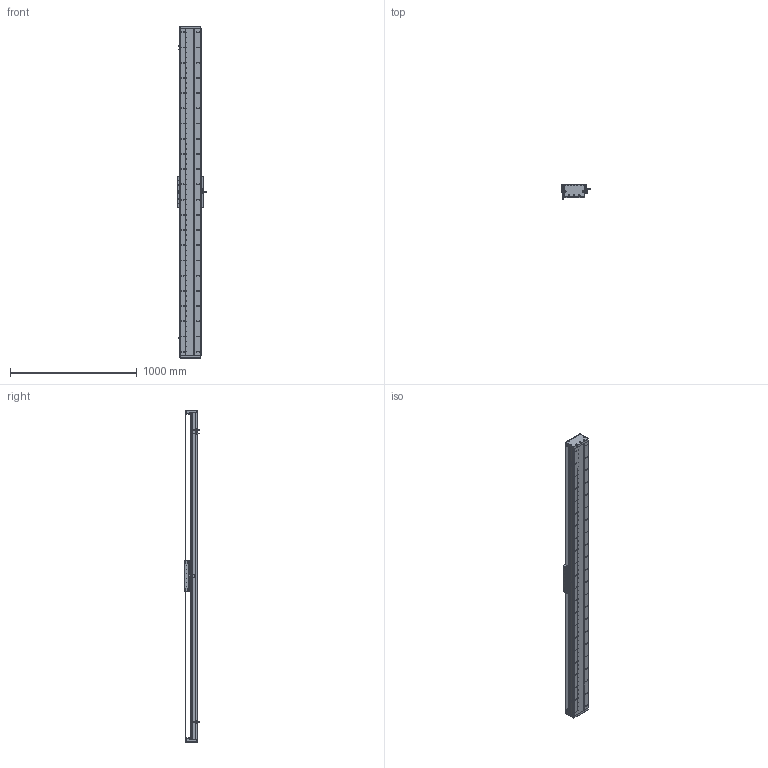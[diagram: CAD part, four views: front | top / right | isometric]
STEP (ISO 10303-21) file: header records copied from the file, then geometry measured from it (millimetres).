
FILE_DESCRIPTION (( 'STEP AP203' ), '1' );
FILE_NAME ('DA-C165-C3-T2280-C010-0.2 直线电机.STEP', '2023-06-13T08:52:38', ( '微软用户' ), ( '微软中国' ), 'SwSTEP 2.0', 'SolidWorks 2019', '' );
FILE_SCHEMA (( 'CONFIG_CONTROL_DESIGN' ));
Length unit declared in the file: millimetre
Products named in the file (18): 复件 DA165-GYP-00 光电感应片^DA-C165-C3-T-C010-0.2-N 直线电机; 葩璃 CKM01-W075-TRL^DA-C165-C3-T-C010-0.2-N 眻盄萇儂; 复件 DA165-GDLK-00 钢带拉块^复件 CU165钢带组件_DA-C165-C3-T-C010-0.2-N 直线电机; 葩璃 CKM03-W075-C1C2-TP-3.0^DA-C165-C3-T-C010-0.2-N 眻盄萇儂; 复件 XD-U-02L 磁栅尺^DA-C165-C3-T-C010-0.2-N 直线电机_T; 复件 六角薄螺母 M3^DA-C165-C3-T-C010-0.2-N 直线电机_GB_FASTENER_NUT_STNAB M3-C; DA-C165-C3-T2280-C010-0.2 眻盄萇儂; 复件 CU165钢带组件^DA-C165-C3-T-C010-0.2-N 直线电机; IU-CU165-L 菁釱絳寢; 复件 CU165 底座^IU-CU165-L 底座导轨_L2580; 复件 DA95-HXJ-00 缓冲橡胶^DA-C165-C3-T-C010-0.2-N 直线电机; 葩璃 DA95-GT-T-00^IU-CU165-L 菁釱絳寢_T; 复件 DA165-GDYK-00 钢带压块^复件 CU165钢带组件_DA-C165-C3-T-C010-0.2-N 直线电机; 葩璃 PM-T45^DA-C165-C3-T-C010-0.2-N 眻盄萇儂; 复件 DMA-010-0.2 读数头^DA-C165-C3-T-C010-0.2-N 直线电机; 复件 DA165-GD-1860-002-00 钢带盖板^复件 CU165钢带组件_DA-C165-C3-T-C010-0.2-N 直线电机; 复件 DA165-GD-DG-H-00 端盖^复件 CU165钢带组件_DA-C165-C3-T-C010-0.2-N 直线电机; 珨极趙賑雄怢啣C3-wf
Assembly tree (35 placements, depth 3):
  DA-C165-C3-T2280-C010-0.2 眻盄萇儂
    IU-CU165-L 菁釱絳寢
      复件 CU165 底座^IU-CU165-L 底座导轨_L2580
      葩璃 DA95-GT-T-00^IU-CU165-L 菁釱絳寢_T  x4
    复件 XD-U-02L 磁栅尺^DA-C165-C3-T-C010-0.2-N 直线电机_T
    葩璃 PM-T45^DA-C165-C3-T-C010-0.2-N 眻盄萇儂  x3
    葩璃 CKM01-W075-TRL^DA-C165-C3-T-C010-0.2-N 眻盄萇儂
    复件 CU165钢带组件^DA-C165-C3-T-C010-0.2-N 直线电机
      复件 DA165-GD-DG-H-00 端盖^复件 CU165钢带组件_DA-C165-C3-T-C010-0.2-N 直线电机  x2
      复件 DA165-GDYK-00 钢带压块^复件 CU165钢带组件_DA-C165-C3-T-C010-0.2-N 直线电机  x2
      复件 DA165-GD-1860-002-00 钢带盖板^复件 CU165钢带组件_DA-C165-C3-T-C010-0.2-N 直线电机
      复件 DA165-GDLK-00 钢带拉块^复件 CU165钢带组件_DA-C165-C3-T-C010-0.2-N 直线电机  x2
    复件 DA95-HXJ-00 缓冲橡胶^DA-C165-C3-T-C010-0.2-N 直线电机  x4
    复件 DA165-GYP-00 光电感应片^DA-C165-C3-T-C010-0.2-N 直线电机
    复件 DMA-010-0.2 读数头^DA-C165-C3-T-C010-0.2-N 直线电机
    葩璃 CKM03-W075-C1C2-TP-3.0^DA-C165-C3-T-C010-0.2-N 眻盄萇儂
    复件 六角薄螺母 M3^DA-C165-C3-T-C010-0.2-N 直线电机_GB_FASTENER_NUT_STNAB M3-C  x8
    珨极趙賑雄怢啣C3-wf
Bounding box: 233 x 111.45 x 2620 mm (x, y, z)
Volume: 15101173.9 mm3; surface area: 4472245.7 mm2
Topology: 72 solids, 122 shells, 4362 faces, 12483 edges, 7886 vertices
Faces by surface type: cylinder 2520, plane 1216, cone 576, torus 46, sphere 4
Entity records: 143803 total; most frequent: CARTESIAN_POINT 38925, ORIENTED_EDGE 21718, DIRECTION 21243, EDGE_CURVE 10859, AXIS2_PLACEMENT_3D 8160, VERTEX_POINT 7074, EDGE_LOOP 5055, LINE 4923
